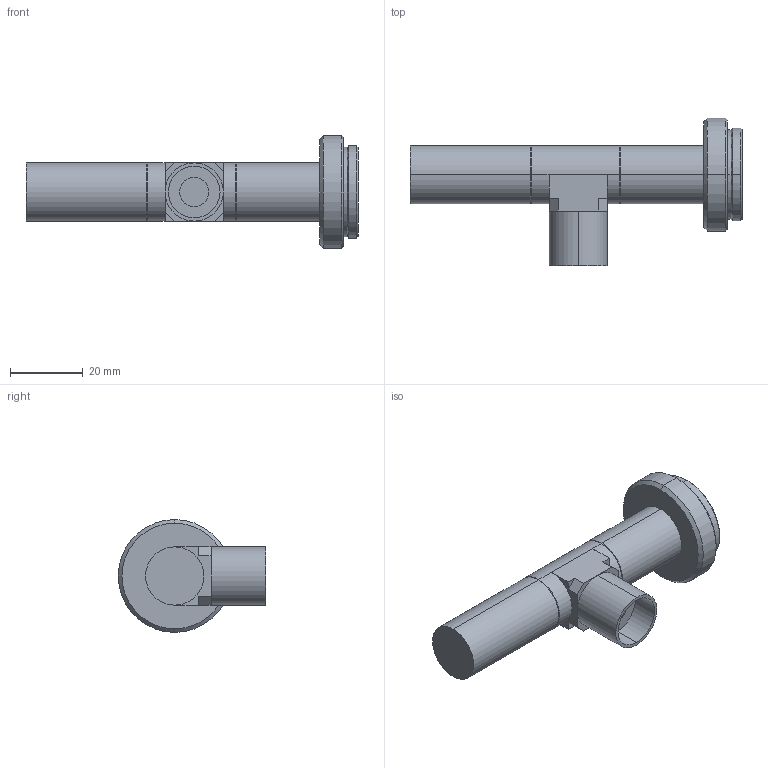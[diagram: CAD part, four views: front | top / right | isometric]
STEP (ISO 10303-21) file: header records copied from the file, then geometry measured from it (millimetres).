
FILE_DESCRIPTION (( 'STEP AP203' ), '1' );
FILE_NAME ('VS-TC2-110CO-LD.STEP', '2017-07-04T02:25:06', ( 'miura_vst' ), ( '' ), 'SwSTEP 2.0', 'SolidWorks 2017', '' );
FILE_SCHEMA (( 'CONFIG_CONTROL_DESIGN' ));
Length unit declared in the file: millimetre
Products named in the file (1): VS-TC2-110CO-LD
Bounding box: 91.2 x 40.5 x 31 mm (x, y, z)
Volume: 25412.8 mm3; surface area: 8011.1 mm2
Topology: 1 solids, 1 shells, 58 faces, 124 edges, 72 vertices
Faces by surface type: plane 23, cylinder 19, cone 16
Entity records: 1619 total; most frequent: DIRECTION 292, CARTESIAN_POINT 255, ORIENTED_EDGE 248, EDGE_CURVE 124, AXIS2_PLACEMENT_3D 109, VECTOR 74, LINE 74, VERTEX_POINT 72
